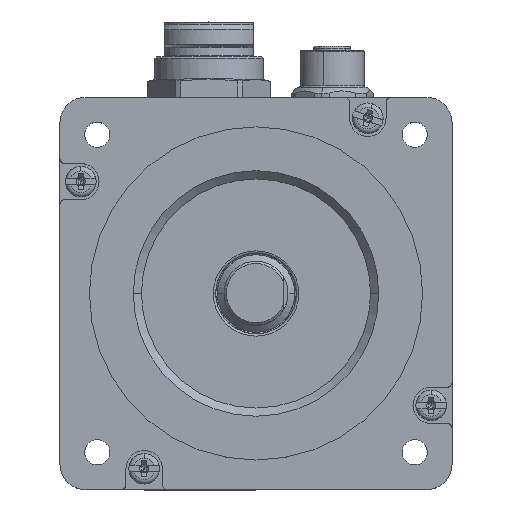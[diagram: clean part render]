
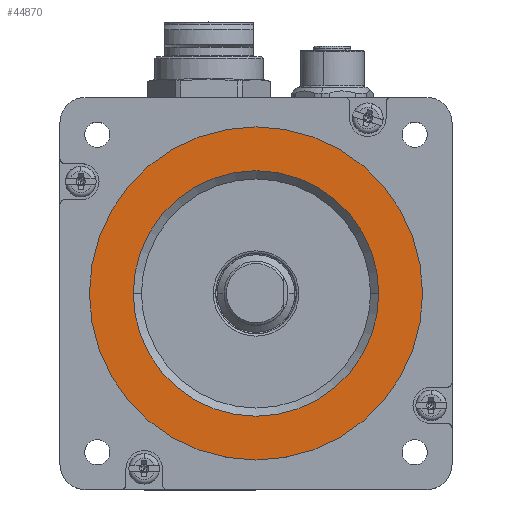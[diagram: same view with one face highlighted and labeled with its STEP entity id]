
A CAD part, top view. The second image highlights one B-rep face of the part: STEP entity #44870.
In plain terms, the highlighted planar face has unit normal (0, 0, 1).
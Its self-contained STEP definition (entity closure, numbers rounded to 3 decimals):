
#1660 = CIRCLE ( 'NONE', #61238, 26.9 ) ;
#8550 = CARTESIAN_POINT ( 'NONE',  ( -48.201, 1.96, 96.4 ) ) ;
#15711 = ORIENTED_EDGE ( 'NONE', *, *, #45536, .T. ) ;
#18329 = EDGE_LOOP ( 'NONE', ( #105223, #68693 ) ) ;
#19234 = EDGE_CURVE ( 'NONE', #21534, #86384, #1660, .T. ) ;
#21534 = VERTEX_POINT ( 'NONE', #52117 ) ;
#25378 = FACE_OUTER_BOUND ( 'NONE', #18329, .T. ) ;
#30652 = ORIENTED_EDGE ( 'NONE', *, *, #19234, .T. ) ;
#30680 = DIRECTION ( 'NONE',  ( 1., 0., 0. ) ) ;
#36471 = CIRCLE ( 'NONE', #80715, 36.5 ) ;
#38676 = CARTESIAN_POINT ( 'NONE',  ( -11.701, 1.96, 96.4 ) ) ;
#44761 = DIRECTION ( 'NONE',  ( 0., 0., -1. ) ) ;
#44870 = ADVANCED_FACE ( 'NONE', ( #65849, #25378 ), #49866, .T. ) ;
#45017 = DIRECTION ( 'NONE',  ( 0., 0., 1. ) ) ;
#45536 = EDGE_CURVE ( 'NONE', #86384, #21534, #65336, .T. ) ;
#47901 = CARTESIAN_POINT ( 'NONE',  ( -11.701, 1.96, 96.4 ) ) ;
#49866 = PLANE ( 'NONE',  #77159 ) ;
#50684 = EDGE_CURVE ( 'NONE', #81855, #56061, #67937, .T. ) ;
#51010 = CARTESIAN_POINT ( 'NONE',  ( -11.701, 1.96, 96.4 ) ) ;
#52117 = CARTESIAN_POINT ( 'NONE',  ( 15.199, 1.96, 96.4 ) ) ;
#56061 = VERTEX_POINT ( 'NONE', #8550 ) ;
#59882 = EDGE_LOOP ( 'NONE', ( #30652, #15711 ) ) ;
#60073 = DIRECTION ( 'NONE',  ( 0., 0., -1. ) ) ;
#61238 = AXIS2_PLACEMENT_3D ( 'NONE', #51010, #60073, #100096 ) ;
#65336 = CIRCLE ( 'NONE', #102905, 26.9 ) ;
#65849 = FACE_BOUND ( 'NONE', #59882, .T. ) ;
#67937 = CIRCLE ( 'NONE', #73020, 36.5 ) ;
#68693 = ORIENTED_EDGE ( 'NONE', *, *, #75654, .T. ) ;
#71170 = DIRECTION ( 'NONE',  ( 0., 0., 1. ) ) ;
#72385 = DIRECTION ( 'NONE',  ( 0., 0., 1. ) ) ;
#73020 = AXIS2_PLACEMENT_3D ( 'NONE', #38676, #71170, #30680 ) ;
#75654 = EDGE_CURVE ( 'NONE', #56061, #81855, #36471, .T. ) ;
#76367 = CARTESIAN_POINT ( 'NONE',  ( -38.601, 1.96, 96.4 ) ) ;
#77159 = AXIS2_PLACEMENT_3D ( 'NONE', #103154, #45017, #78581 ) ;
#78581 = DIRECTION ( 'NONE',  ( 1., 0., 0. ) ) ;
#80715 = AXIS2_PLACEMENT_3D ( 'NONE', #47901, #72385, #104962 ) ;
#81855 = VERTEX_POINT ( 'NONE', #100889 ) ;
#86384 = VERTEX_POINT ( 'NONE', #76367 ) ;
#92838 = CARTESIAN_POINT ( 'NONE',  ( -11.701, 1.96, 96.4 ) ) ;
#100096 = DIRECTION ( 'NONE',  ( 1., 0., 0. ) ) ;
#100790 = DIRECTION ( 'NONE',  ( 1., 0., 0. ) ) ;
#100889 = CARTESIAN_POINT ( 'NONE',  ( 24.799, 1.96, 96.4 ) ) ;
#102905 = AXIS2_PLACEMENT_3D ( 'NONE', #92838, #44761, #100790 ) ;
#103154 = CARTESIAN_POINT ( 'NONE',  ( -49.151, -35.49, 96.4 ) ) ;
#104962 = DIRECTION ( 'NONE',  ( 1., 0., 0. ) ) ;
#105223 = ORIENTED_EDGE ( 'NONE', *, *, #50684, .T. ) ;
